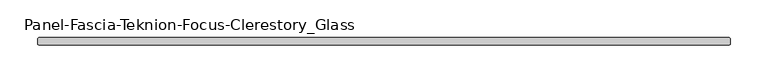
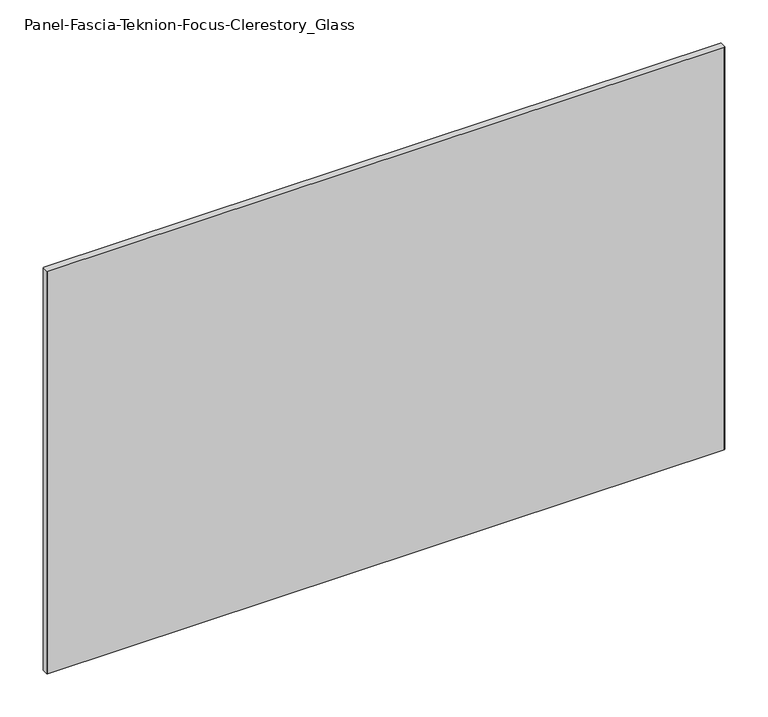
"""IFC4 building model written with IfcOpenShell, lengths in millimetres: proxy geometry, Panel-Fascia-Teknion-Focus-Clerestory_Glass : FWGS."""

from ifc_helpers import new_model, si_unit, origin, origin_with_axes, place, context, project, spatial, polyline, outline, extrude, source, transform, mapped, element, save


def panel_fascia_teknion_focus_clerestory_glass_b00a05dd(model_context):
    return source(origin(), model_context, "Body", "SweptSolid", [
        extrude(outline(polyline([(456.2, 5.0), (457.2, 4.0), (457.2, -4.0), (456.2, -5.0), (-456.2, -5.0), (-457.2, -4.0), (-457.2, 4.0), (-456.2, 5.0), (456.2, 5.0)])), origin_with_axes(), (0.0, 0.0, 1.0), 573.8598414),
    ])


if __name__ == "__main__":
    model = new_model("IFC4")
    model_context = context("Model", 3, world=origin())
    ifc_project = project(units=[si_unit("LENGTHUNIT", "METRE", prefix="MILLI")], contexts=[model_context])
    site = spatial("IfcSite", under=ifc_project)
    building = spatial("IfcBuilding", under=site)
    placement = place(None, origin())
    panel_fascia_teknion_focus_clerestory_glass_shape = panel_fascia_teknion_focus_clerestory_glass_b00a05dd(model_context)
    element("IfcBuildingElementProxy", 1, Name="Panel-Fascia-Teknion-Focus-Clerestory_Glass : FWGS", ObjectType="Panel-Fascia-Teknion-Focus-Clerestory_Glass : FWGS", at=placement, inside=building, context=model_context, shape_type="MappedRepresentation", body=[
        mapped(panel_fascia_teknion_focus_clerestory_glass_shape, transform((0.0, 0.0, 0.0), x_axis=(1.0, 0.0, 0.0), y_axis=(0.0, 1.0, 0.0), z_axis=(0.0, 0.0, 1.0))),
    ])
    save(model, "model.ifc")
